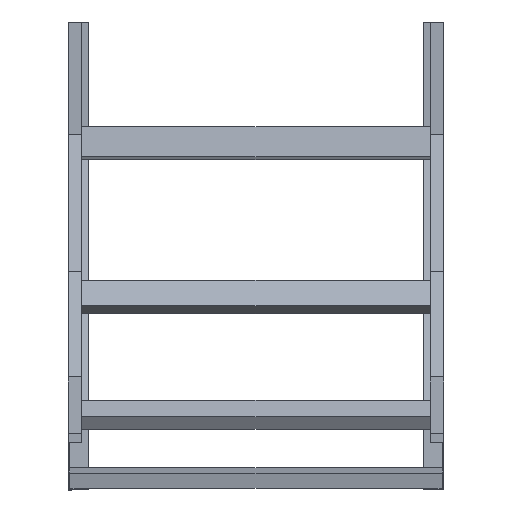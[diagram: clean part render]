
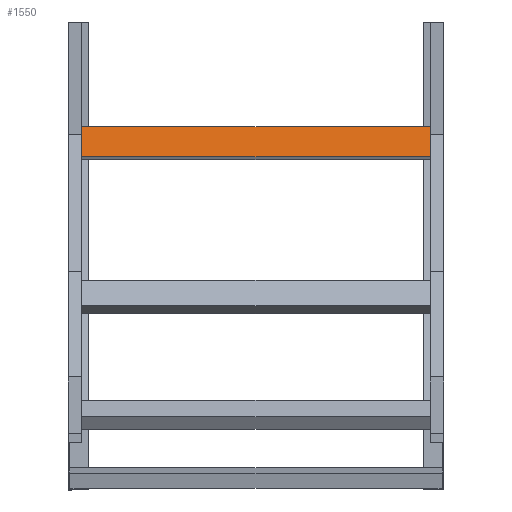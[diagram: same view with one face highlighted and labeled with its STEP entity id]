
A CAD part, top view. The second image highlights one B-rep face of the part: STEP entity #1550.
In plain terms, the highlighted planar face has unit normal (0, 0.195, 0.981) as drawn and (0, 1, 0) by its records, which use the part's own axes.
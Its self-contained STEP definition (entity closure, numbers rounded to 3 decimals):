
#47 = VERTEX_POINT ( 'NONE', #1890 ) ;
#95 = DIRECTION ( 'NONE',  ( 0., -1., 0. ) ) ;
#158 = CARTESIAN_POINT ( 'NONE',  ( 248., 20., 20.25 ) ) ;
#221 = ORIENTED_EDGE ( 'NONE', *, *, #1506, .F. ) ;
#232 = CARTESIAN_POINT ( 'NONE',  ( 248., 20., 20.25 ) ) ;
#246 = VERTEX_POINT ( 'NONE', #1263 ) ;
#259 = DIRECTION ( 'NONE',  ( 0., 0., -1. ) ) ;
#274 = ORIENTED_EDGE ( 'NONE', *, *, #1541, .T. ) ;
#351 = ORIENTED_EDGE ( 'NONE', *, *, #516, .T. ) ;
#426 = CARTESIAN_POINT ( 'NONE',  ( 248., 20., 20.25 ) ) ;
#448 = VECTOR ( 'NONE', #529, 1000. ) ;
#493 = CARTESIAN_POINT ( 'NONE',  ( 248., 20., -20.25 ) ) ;
#516 = EDGE_CURVE ( 'NONE', #1836, #47, #1072, .T. ) ;
#529 = DIRECTION ( 'NONE',  ( 0., 0., 1. ) ) ;
#538 = LINE ( 'NONE', #1248, #1593 ) ;
#639 = DIRECTION ( 'NONE',  ( -1., 0., 0. ) ) ;
#753 = VERTEX_POINT ( 'NONE', #426 ) ;
#806 = EDGE_CURVE ( 'NONE', #1836, #753, #1308, .T. ) ;
#937 = VECTOR ( 'NONE', #1015, 1000. ) ;
#1015 = DIRECTION ( 'NONE',  ( 0., 0., 1. ) ) ;
#1072 = LINE ( 'NONE', #493, #1327 ) ;
#1154 = ORIENTED_EDGE ( 'NONE', *, *, #806, .F. ) ;
#1248 = CARTESIAN_POINT ( 'NONE',  ( 248., 20., 20.25 ) ) ;
#1263 = CARTESIAN_POINT ( 'NONE',  ( -248., 20., 20.25 ) ) ;
#1286 = CARTESIAN_POINT ( 'NONE',  ( -248., 20., 20.25 ) ) ;
#1308 = LINE ( 'NONE', #158, #937 ) ;
#1327 = VECTOR ( 'NONE', #639, 1000. ) ;
#1409 = LINE ( 'NONE', #1286, #448 ) ;
#1434 = EDGE_LOOP ( 'NONE', ( #274, #221, #1154, #351 ) ) ;
#1506 = EDGE_CURVE ( 'NONE', #753, #246, #538, .T. ) ;
#1541 = EDGE_CURVE ( 'NONE', #47, #246, #1409, .T. ) ;
#1550 = ADVANCED_FACE ( 'NONE', ( #1574 ), #1581, .F. ) ;
#1574 = FACE_OUTER_BOUND ( 'NONE', #1434, .T. ) ;
#1581 = PLANE ( 'NONE',  #1800 ) ;
#1593 = VECTOR ( 'NONE', #1835, 1000. ) ;
#1713 = CARTESIAN_POINT ( 'NONE',  ( 248., 20., -20.25 ) ) ;
#1800 = AXIS2_PLACEMENT_3D ( 'NONE', #232, #95, #259 ) ;
#1835 = DIRECTION ( 'NONE',  ( -1., 0., 0. ) ) ;
#1836 = VERTEX_POINT ( 'NONE', #1713 ) ;
#1890 = CARTESIAN_POINT ( 'NONE',  ( -248., 20., -20.25 ) ) ;
